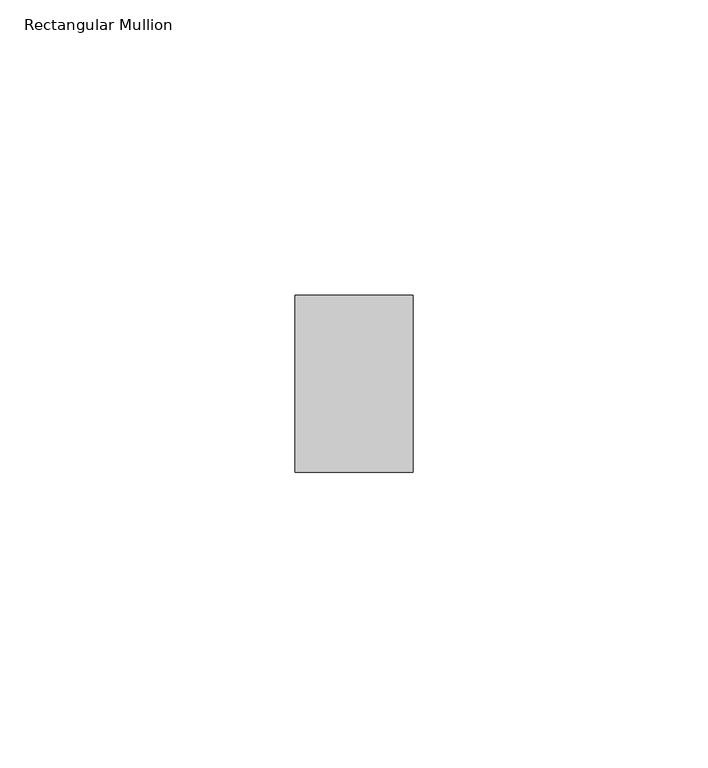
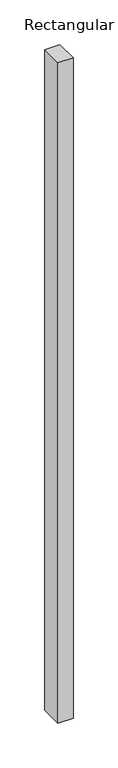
"""IFC4 building model written with IfcOpenShell, lengths in millimetres: member geometry, Rectangular Mullion : ARQ_TV_MULL_30x20mm."""

from ifc_helpers import new_model, si_unit, frame, origin, place, context, project, spatial, polyline, outline, extrude, source, transform, mapped, element, save


def rectangular_mullion_4ef2b083(model_context):
    return source(origin(), model_context, "Body", "SweptSolid", [
        extrude(outline(polyline([(10.0, 15.0), (10.0, -15.0), (-10.0, -15.0), (-10.0, 15.0), (10.0, 15.0)])), frame((0.0, 0.0, -904.9558386), z_axis=(0.0, 0.0, 1.0), x_axis=(1.0, 0.0, 0.0)), (0.0, 0.0, 1.0), 904.9558386),
    ])


if __name__ == "__main__":
    model = new_model("IFC4")
    model_context = context("Model", 3, world=origin())
    ifc_project = project(units=[si_unit("LENGTHUNIT", "METRE", prefix="MILLI")], contexts=[model_context])
    site = spatial("IfcSite", under=ifc_project)
    building = spatial("IfcBuilding", under=site)
    placement = place(None, origin())
    rectangular_mullion_shape = rectangular_mullion_4ef2b083(model_context)
    element("IfcMember", 1, ObjectType="Rectangular Mullion : ARQ_TV_MULL_30x20mm", at=placement, inside=building, context=model_context, shape_type="MappedRepresentation", body=[
        mapped(rectangular_mullion_shape, transform((0.0, 0.0, 0.0), x_axis=(1.0, 0.0, 0.0), y_axis=(0.0, 1.0, 0.0), z_axis=(0.0, 0.0, 1.0))),
    ])
    save(model, "model.ifc")
